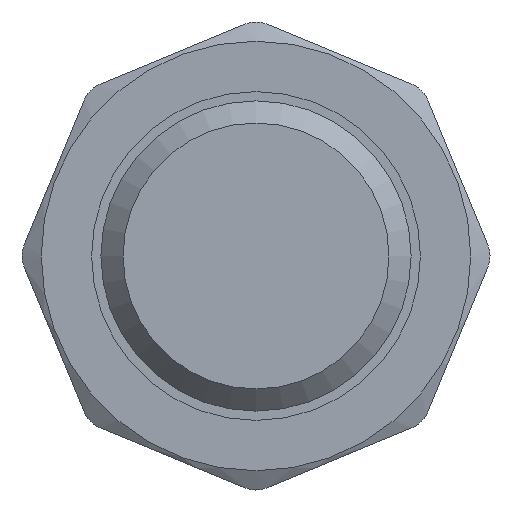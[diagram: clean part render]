
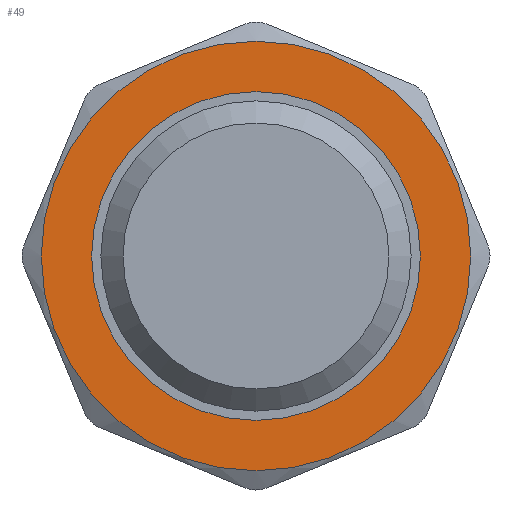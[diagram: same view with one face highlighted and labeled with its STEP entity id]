
A CAD part, front view. The second image highlights one B-rep face of the part: STEP entity #49.
In plain terms, the highlighted planar face has unit normal (0, -1, 0).
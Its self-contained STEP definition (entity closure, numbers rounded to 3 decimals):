
#49=ADVANCED_FACE('',(#140,#142),#144,.T.);
#140=FACE_BOUND('',#141,.T.);
#141=EDGE_LOOP('',(#499));
#142=FACE_BOUND('',#143,.T.);
#143=EDGE_LOOP('',(#500));
#144=PLANE('',#145);
#145=AXIS2_PLACEMENT_3D('',#146,#147,#148);
#146=CARTESIAN_POINT('',(0.,18.5,0.));
#147=DIRECTION('',(0.,-1.,0.));
#148=DIRECTION('',(-1.,0.,0.));
#499=ORIENTED_EDGE('',*,*,#765,.T.);
#500=ORIENTED_EDGE('',*,*,#764,.T.);
#764=EDGE_CURVE('',#903,#903,#904,.F.);
#765=EDGE_CURVE('',#905,#905,#906,.F.);
#903=VERTEX_POINT('',#1145);
#904=CIRCLE('',#1146,11.1);
#905=VERTEX_POINT('',#1150);
#906=CIRCLE('',#1151,14.5);
#1145=CARTESIAN_POINT('',(0.,18.5,-11.1));
#1146=AXIS2_PLACEMENT_3D('',#1147,#1148,#1149);
#1147=CARTESIAN_POINT('',(0.,18.5,0.));
#1148=DIRECTION('',(0.,-1.,0.));
#1149=DIRECTION('',(0.,0.,-1.));
#1150=CARTESIAN_POINT('',(14.5,18.5,0.));
#1151=AXIS2_PLACEMENT_3D('',#1152,#1153,#1154);
#1152=CARTESIAN_POINT('',(0.,18.5,0.));
#1153=DIRECTION('',(0.,1.,0.));
#1154=DIRECTION('',(1.,0.,0.));
